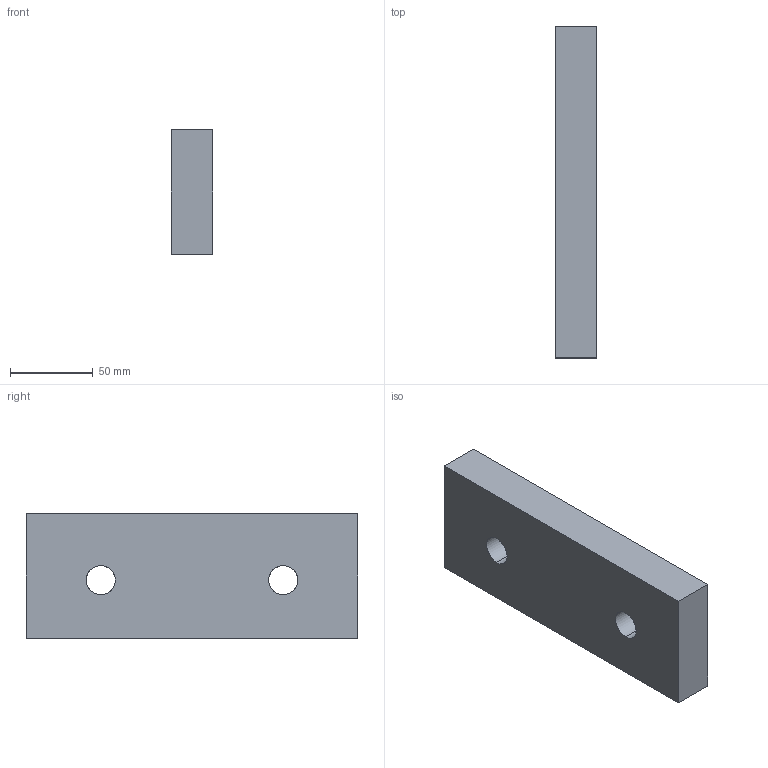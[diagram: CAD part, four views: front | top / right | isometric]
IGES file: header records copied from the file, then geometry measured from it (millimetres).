
Start section: START RECORD GO HERE.
Global section: file name: A612-075-200.igs; native system: DASSAULT SYSTEMES CATIA V5 R20 - www.3ds.com; preprocessor: CATIA Version 5 Release 20 ; author: Utente; organization: NB04-ASUS; date: 20200414.152418; units: millimetre
Bounding box: 25 x 200 x 75 mm (x, y, z)
Surface area: 45536.8 mm2 (no closed solid volume)
Topology: 0 solids, 0 shells, 10 faces, 48 edges, 48 vertices
Faces by surface type: extrusion 6, revolution 4
